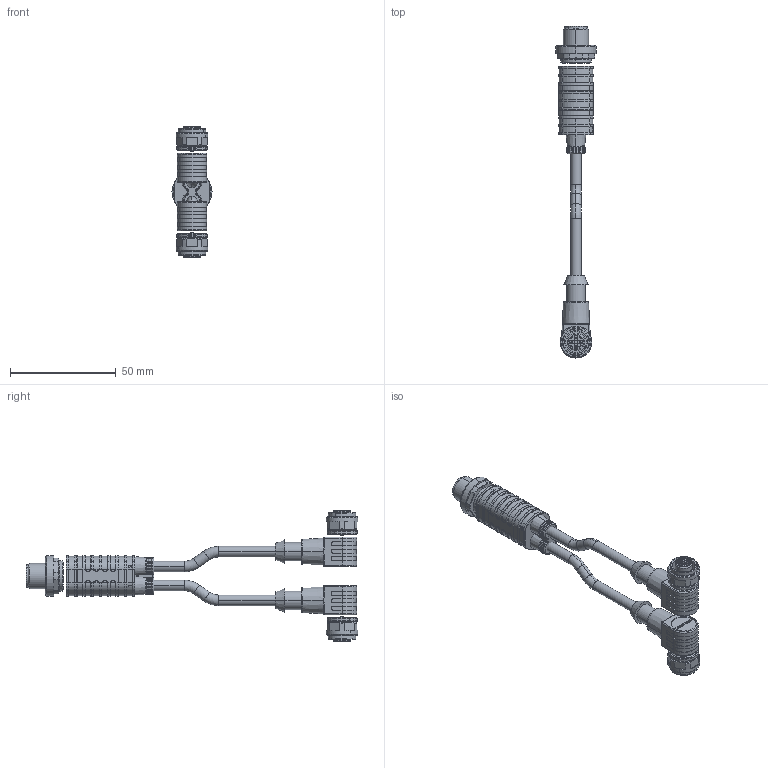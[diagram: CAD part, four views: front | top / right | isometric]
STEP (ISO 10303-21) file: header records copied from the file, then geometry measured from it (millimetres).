
FILE_DESCRIPTION (( 'STEP AP203' ), '1' );
FILE_NAME ('VBRS4.4-2WKC4T-L1_L2_.STEP', '2017-07-26T02:57:16', ( 'User' ), ( '' ), 'SwSTEP 2.0', 'SolidWorks 2016', '' );
FILE_SCHEMA (( 'CONFIG_CONTROL_DESIGN' ));
Length unit declared in the file: millimetre
Products named in the file (1): VBRS4.4-2WKC4T-L1_L2_
Bounding box: 19 x 156.94 x 61.85 mm (x, y, z)
Surface area: 13699.9 mm2 (no closed solid volume)
Topology: 0 solids, 25 shells, 1002 faces, 2995 edges, 1952 vertices
Faces by surface type: cylinder 407, plane 297, torus 189, cone 57, bspline 44, sphere 8
Entity records: 35731 total; most frequent: CARTESIAN_POINT 8872, DIRECTION 5885, ORIENTED_EDGE 5270, EDGE_CURVE 2979, AXIS2_PLACEMENT_3D 2330, VERTEX_POINT 1952, CIRCLE 1371, VECTOR 1225
